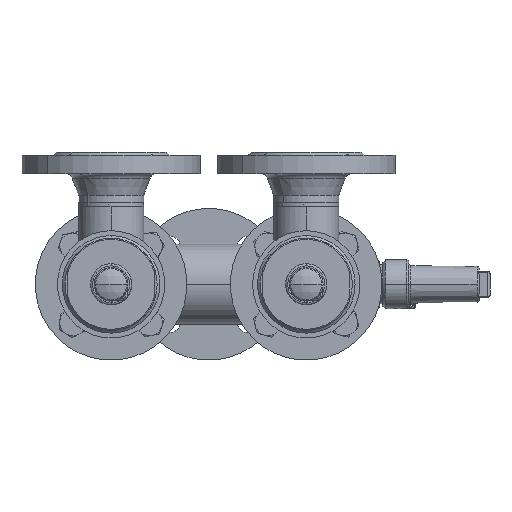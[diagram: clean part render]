
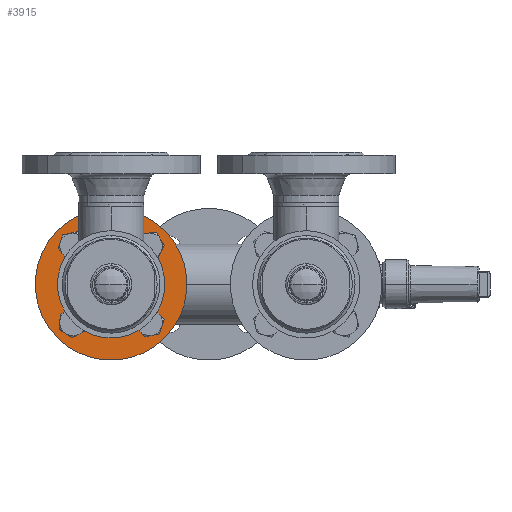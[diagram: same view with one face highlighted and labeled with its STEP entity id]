
A CAD part, left-side view. The second image highlights one B-rep face of the part: STEP entity #3915.
In plain terms, the highlighted planar face has unit normal (-1, 0, 0) as drawn and (0, 1, 0) by its records, which use the part's own axes.
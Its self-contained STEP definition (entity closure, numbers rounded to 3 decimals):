
#32770 = VERTEX_POINT ( 'NONE', #29362 ) ;
#189 = CARTESIAN_POINT ( 'NONE',  ( -9., 18., -50. ) ) ;
#33243 = EDGE_CURVE ( 'NONE', #32770, #15594, #30425, .T. ) ;
#601 = EDGE_CURVE ( 'NONE', #18367, #20667, #34932, .T. ) ;
#33595 = CARTESIAN_POINT ( 'NONE',  ( 70., 18., 0. ) ) ;
#1135 = VERTEX_POINT ( 'NONE', #35944 ) ;
#17538 = CIRCLE ( 'NONE', #17539, 9. ) ;
#17539 = AXIS2_PLACEMENT_3D ( 'NONE', #17540, #17541, #17542 ) ;
#17540 = CARTESIAN_POINT ( 'NONE',  ( 50., 18., 0. ) ) ;
#17541 = DIRECTION ( 'NONE',  ( 0., 1., 0. ) ) ;
#17542 = DIRECTION ( 'NONE',  ( -1., 0., 0. ) ) ;
#1337 = CIRCLE ( 'NONE', #1380, 9. ) ;
#1380 = AXIS2_PLACEMENT_3D ( 'NONE', #1381, #1382, #1383 ) ;
#1381 = CARTESIAN_POINT ( 'NONE',  ( 0., 18., -50. ) ) ;
#1382 = DIRECTION ( 'NONE',  ( 0., 1., 0. ) ) ;
#1383 = DIRECTION ( 'NONE',  ( 0., 0., 1. ) ) ;
#17803 = CARTESIAN_POINT ( 'NONE',  ( -59., 18., 0. ) ) ;
#1689 = ORIENTED_EDGE ( 'NONE', *, *, #601, .F. ) ;
#1799 = EDGE_CURVE ( 'NONE', #24594, #1135, #37466, .T. ) ;
#18367 = VERTEX_POINT ( 'NONE', #189 ) ;
#34857 = EDGE_CURVE ( 'NONE', #38178, #41440, #31845, .T. ) ;
#18538 = CIRCLE ( 'NONE', #18539, 9. ) ;
#18539 = AXIS2_PLACEMENT_3D ( 'NONE', #18540, #18541, #18542 ) ;
#18540 = CARTESIAN_POINT ( 'NONE',  ( -50., 18., 0. ) ) ;
#18541 = DIRECTION ( 'NONE',  ( 0., 1., 0. ) ) ;
#18542 = DIRECTION ( 'NONE',  ( 1., 0., 0. ) ) ;
#34932 = CIRCLE ( 'NONE', #34969, 9. ) ;
#34969 = AXIS2_PLACEMENT_3D ( 'NONE', #34970, #34971, #34972 ) ;
#34970 = CARTESIAN_POINT ( 'NONE',  ( 0., 18., -50. ) ) ;
#34971 = DIRECTION ( 'NONE',  ( 0., 1., 0. ) ) ;
#34972 = DIRECTION ( 'NONE',  ( 0., 0., 1. ) ) ;
#18833 = EDGE_CURVE ( 'NONE', #20667, #18367, #1337, .T. ) ;
#35943 = ORIENTED_EDGE ( 'NONE', *, *, #34857, .F. ) ;
#35944 = CARTESIAN_POINT ( 'NONE',  ( -32.147, 18., 0. ) ) ;
#3211 = EDGE_LOOP ( 'NONE', ( #1689, #43004 ) ) ;
#3915 = ADVANCED_FACE ( 'NONE', ( #40618, #40619, #40620, #40621, #40622, #40623 ), #40624, .F. ) ;
#20667 = VERTEX_POINT ( 'NONE', #4762 ) ;
#20699 = CARTESIAN_POINT ( 'NONE',  ( -41., 18., 0. ) ) ;
#4454 = EDGE_CURVE ( 'NONE', #6909, #24112, #41173, .T. ) ;
#37460 = EDGE_LOOP ( 'NONE', ( #35943, #13650 ) ) ;
#37466 = CIRCLE ( 'NONE', #37467, 32.147 ) ;
#37467 = AXIS2_PLACEMENT_3D ( 'NONE', #37468, #37469, #37470 ) ;
#37468 = CARTESIAN_POINT ( 'NONE',  ( 0., 18., 0. ) ) ;
#37469 = DIRECTION ( 'NONE',  ( 0., 1., 0. ) ) ;
#37470 = DIRECTION ( 'NONE',  ( -1., 0., 0. ) ) ;
#4762 = CARTESIAN_POINT ( 'NONE',  ( 9., 18., -50. ) ) ;
#37611 = CARTESIAN_POINT ( 'NONE',  ( -9., 18., 50. ) ) ;
#38178 = VERTEX_POINT ( 'NONE', #37611 ) ;
#38179 = ORIENTED_EDGE ( 'NONE', *, *, #27889, .F. ) ;
#38491 = CIRCLE ( 'NONE', #38492, 9. ) ;
#38492 = AXIS2_PLACEMENT_3D ( 'NONE', #38493, #38494, #38495 ) ;
#38493 = CARTESIAN_POINT ( 'NONE',  ( 0., 18., 50. ) ) ;
#38494 = DIRECTION ( 'NONE',  ( 0., 1., 0. ) ) ;
#38495 = DIRECTION ( 'NONE',  ( 0., 0., -1. ) ) ;
#5877 = ORIENTED_EDGE ( 'NONE', *, *, #33243, .T. ) ;
#38832 = EDGE_CURVE ( 'NONE', #41440, #38178, #38491, .T. ) ;
#6909 = VERTEX_POINT ( 'NONE', #12546 ) ;
#39711 = EDGE_CURVE ( 'NONE', #27425, #29727, #40540, .T. ) ;
#23449 = EDGE_CURVE ( 'NONE', #1135, #24594, #9329, .T. ) ;
#7138 = EDGE_LOOP ( 'NONE', ( #5877, #24370 ) ) ;
#23689 = EDGE_CURVE ( 'NONE', #15594, #32770, #9557, .T. ) ;
#7637 = ORIENTED_EDGE ( 'NONE', *, *, #1799, .F. ) ;
#24112 = VERTEX_POINT ( 'NONE', #10213 ) ;
#40540 = CIRCLE ( 'NONE', #40541, 9. ) ;
#40541 = AXIS2_PLACEMENT_3D ( 'NONE', #40542, #40543, #40544 ) ;
#40542 = CARTESIAN_POINT ( 'NONE',  ( -50., 18., 0. ) ) ;
#40543 = DIRECTION ( 'NONE',  ( 0., 1., 0. ) ) ;
#40544 = DIRECTION ( 'NONE',  ( 1., 0., 0. ) ) ;
#40618 = FACE_BOUND ( 'NONE', #3211, .T. ) ;
#40619 = FACE_BOUND ( 'NONE', #42298, .T. ) ;
#40620 = FACE_BOUND ( 'NONE', #37460, .T. ) ;
#40621 = FACE_BOUND ( 'NONE', #13152, .T. ) ;
#40622 = FACE_BOUND ( 'NONE', #9760, .T. ) ;
#40623 = FACE_OUTER_BOUND ( 'NONE', #7138, .T. ) ;
#40624 = PLANE ( 'NONE',  #40625 ) ;
#40625 = AXIS2_PLACEMENT_3D ( 'NONE', #40626, #40627, #40628 ) ;
#40626 = CARTESIAN_POINT ( 'NONE',  ( 70., 18., 0. ) ) ;
#40627 = DIRECTION ( 'NONE',  ( 0., -1., 0. ) ) ;
#40628 = DIRECTION ( 'NONE',  ( 1., 0., 0. ) ) ;
#24370 = ORIENTED_EDGE ( 'NONE', *, *, #23689, .T. ) ;
#40779 = ORIENTED_EDGE ( 'NONE', *, *, #39711, .F. ) ;
#24594 = VERTEX_POINT ( 'NONE', #10705 ) ;
#41173 = CIRCLE ( 'NONE', #41174, 9. ) ;
#41174 = AXIS2_PLACEMENT_3D ( 'NONE', #41175, #41176, #41177 ) ;
#41175 = CARTESIAN_POINT ( 'NONE',  ( 50., 18., 0. ) ) ;
#41176 = DIRECTION ( 'NONE',  ( 0., 1., 0. ) ) ;
#41177 = DIRECTION ( 'NONE',  ( -1., 0., 0. ) ) ;
#41440 = VERTEX_POINT ( 'NONE', #42891 ) ;
#8690 = ORIENTED_EDGE ( 'NONE', *, *, #23449, .F. ) ;
#9329 = CIRCLE ( 'NONE', #9330, 32.147 ) ;
#9330 = AXIS2_PLACEMENT_3D ( 'NONE', #9331, #9332, #9333 ) ;
#9331 = CARTESIAN_POINT ( 'NONE',  ( 0., 18., 0. ) ) ;
#9332 = DIRECTION ( 'NONE',  ( 0., 1., 0. ) ) ;
#9333 = DIRECTION ( 'NONE',  ( -1., 0., 0. ) ) ;
#42298 = EDGE_LOOP ( 'NONE', ( #40779, #38179 ) ) ;
#9557 = CIRCLE ( 'NONE', #9558, 70. ) ;
#9558 = AXIS2_PLACEMENT_3D ( 'NONE', #9559, #9560, #9561 ) ;
#9559 = CARTESIAN_POINT ( 'NONE',  ( 0., 18., 0. ) ) ;
#9560 = DIRECTION ( 'NONE',  ( 0., 1., 0. ) ) ;
#9561 = DIRECTION ( 'NONE',  ( -1., 0., 0. ) ) ;
#9760 = EDGE_LOOP ( 'NONE', ( #8690, #7637 ) ) ;
#42891 = CARTESIAN_POINT ( 'NONE',  ( 9., 18., 50. ) ) ;
#10213 = CARTESIAN_POINT ( 'NONE',  ( 41., 18., 0. ) ) ;
#43004 = ORIENTED_EDGE ( 'NONE', *, *, #18833, .F. ) ;
#10263 = ORIENTED_EDGE ( 'NONE', *, *, #4454, .F. ) ;
#10705 = CARTESIAN_POINT ( 'NONE',  ( 32.147, 18., 0. ) ) ;
#27425 = VERTEX_POINT ( 'NONE', #17803 ) ;
#11320 = EDGE_CURVE ( 'NONE', #24112, #6909, #17538, .T. ) ;
#27889 = EDGE_CURVE ( 'NONE', #29727, #27425, #18538, .T. ) ;
#12079 = ORIENTED_EDGE ( 'NONE', *, *, #11320, .F. ) ;
#12546 = CARTESIAN_POINT ( 'NONE',  ( 59., 18., 0. ) ) ;
#29362 = CARTESIAN_POINT ( 'NONE',  ( -70., 18., 0. ) ) ;
#13152 = EDGE_LOOP ( 'NONE', ( #12079, #10263 ) ) ;
#29727 = VERTEX_POINT ( 'NONE', #20699 ) ;
#13650 = ORIENTED_EDGE ( 'NONE', *, *, #38832, .F. ) ;
#30425 = CIRCLE ( 'NONE', #30426, 70. ) ;
#30426 = AXIS2_PLACEMENT_3D ( 'NONE', #30427, #30428, #30429 ) ;
#30427 = CARTESIAN_POINT ( 'NONE',  ( 0., 18., 0. ) ) ;
#30428 = DIRECTION ( 'NONE',  ( 0., 1., 0. ) ) ;
#30429 = DIRECTION ( 'NONE',  ( -1., 0., 0. ) ) ;
#31845 = CIRCLE ( 'NONE', #31846, 9. ) ;
#31846 = AXIS2_PLACEMENT_3D ( 'NONE', #31847, #31848, #31875 ) ;
#31847 = CARTESIAN_POINT ( 'NONE',  ( 0., 18., 50. ) ) ;
#31848 = DIRECTION ( 'NONE',  ( 0., 1., 0. ) ) ;
#31875 = DIRECTION ( 'NONE',  ( 0., 0., -1. ) ) ;
#15594 = VERTEX_POINT ( 'NONE', #33595 ) ;
